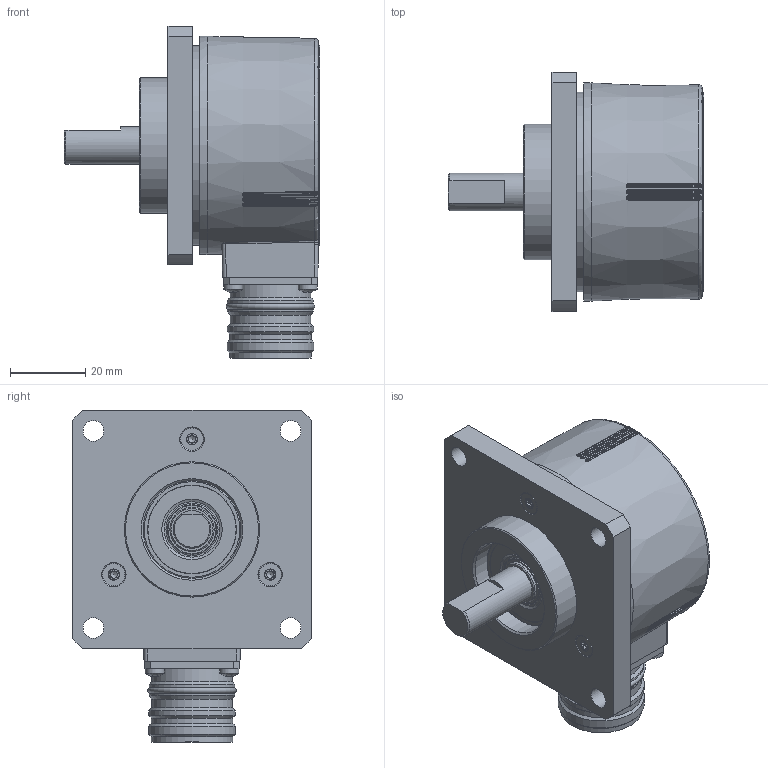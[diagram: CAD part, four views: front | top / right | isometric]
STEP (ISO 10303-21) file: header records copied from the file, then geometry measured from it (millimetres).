
FILE_DESCRIPTION( ( 'Unknown' ), '1' );
FILE_NAME( '//emea.baumernet.org/de05d/RD/caddy/k/GESAMT/EIL580/EIL580/3D/STEP/MarCom/EIL580-SQ10.5Fx.xxxxx.A.stp', 'Unknown', ( 'Unknown' ), ( 'Unknown' ), 'PSStep 19.0.9', 'Unknown', ' ' );
FILE_SCHEMA( ( 'AUTOMOTIVE_DESIGN { 1 0 10303 214 1 1 1 1 }' ) );
Length unit declared in the file: millimetre
Products named in the file (3): Assem1; 1_186; 2_59
Assembly tree (2 placements, depth 2):
  Assem1
    1_186
    2_59
Bounding box: 68 x 63.5 x 88.25 mm (x, y, z)
Volume: 129316.6 mm3; surface area: 26645.7 mm2
Topology: 2 solids, 24 shells, 720 faces, 1689 edges, 1077 vertices
Faces by surface type: plane 237, cylinder 187, extrusion 108, bspline 76, cone 55, torus 39, sphere 18
Full cylindrical faces by diameter (mm): 1 x12, 1.1 x12, 1.5 x1, 2.46 x3, 2.5 x4, 2.7 x4, 3 x6, 3.24 x6, 3.4 x3, 5 x4, 5.5 x4, 9.8 x1, 10 x2, 11.8 x1, 12.8 x1, 13.138 x1, 16.2 x1, 17.1 x1, 17.3 x1, 20 x1, 20.5 x1, 21.4 x2, 21.74 x2, 22.85 x2, 23 x2, 23.446 x1, 26 x1, 36 x2, 53 x1, 58 x2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
Entity records: 54230 total; most frequent: CARTESIAN_POINT 33658, ORIENTED_EDGE 2940, DIRECTION 2643, EDGE_CURVE 1470, VERTEX_POINT 1049, AXIS2_PLACEMENT_3D 1037, EDGE_LOOP 980, FACE_OUTER_BOUND 830
